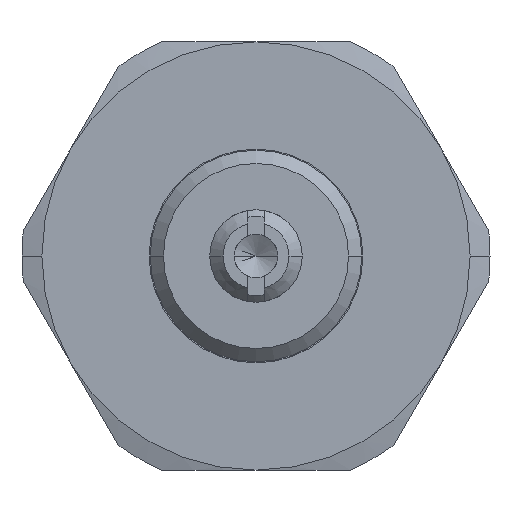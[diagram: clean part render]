
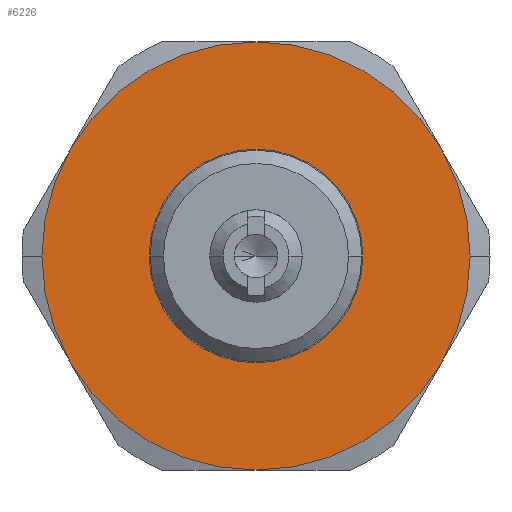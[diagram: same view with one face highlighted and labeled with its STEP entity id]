
A CAD part, left-side view. The second image highlights one B-rep face of the part: STEP entity #6226.
In plain terms, the highlighted planar face has unit normal (-1, 0, 0).
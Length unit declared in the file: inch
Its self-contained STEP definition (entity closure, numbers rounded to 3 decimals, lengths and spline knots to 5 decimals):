
#4776=CARTESIAN_POINT('',(-0.219,0.2495,0.0));
#4777=VERTEX_POINT('',#4776);
#4793=CARTESIAN_POINT('',(-0.219,-0.2495,0.));
#4794=VERTEX_POINT('',#4793);
#4801=CARTESIAN_POINT('',(-0.219,0.0,0.0));
#4802=DIRECTION('',(1.0,0.0,0.0));
#4803=DIRECTION('',(0.0,1.0,0.0));
#4804=AXIS2_PLACEMENT_3D('',#4801,#4802,#4803);
#4805=CIRCLE('',#4804,0.2495);
#4806=EDGE_CURVE('',#4777,#4794,#4805,.T.);
#4900=CARTESIAN_POINT('',(-0.219,0.5,0.));
#4901=VERTEX_POINT('',#4900);
#4908=CARTESIAN_POINT('',(-0.219,0.43301,0.25));
#4909=VERTEX_POINT('',#4908);
#4910=CARTESIAN_POINT('',(-0.219,0.0,0.0));
#4911=DIRECTION('',(1.0,0.0,0.0));
#4912=DIRECTION('',(0.0,1.0,0.0));
#4913=AXIS2_PLACEMENT_3D('',#4910,#4911,#4912);
#4914=CIRCLE('',#4913,0.5);
#4915=EDGE_CURVE('',#4901,#4909,#4914,.T.);
#4933=CARTESIAN_POINT('',(-0.219,-0.5,0.));
#4934=VERTEX_POINT('',#4933);
#4942=CARTESIAN_POINT('',(-0.219,-0.43301,0.25));
#4943=VERTEX_POINT('',#4942);
#4951=CARTESIAN_POINT('',(-0.219,0.0,0.0));
#4952=DIRECTION('',(1.0,0.0,0.0));
#4953=DIRECTION('',(0.0,1.0,0.0));
#4954=AXIS2_PLACEMENT_3D('',#4951,#4952,#4953);
#4955=CIRCLE('',#4954,0.5);
#4956=EDGE_CURVE('',#4943,#4934,#4955,.T.);
#5583=CARTESIAN_POINT('',(-0.219,0.,0.5));
#5584=VERTEX_POINT('',#5583);
#5678=CARTESIAN_POINT('',(-0.219,0.43301,-0.25));
#5679=VERTEX_POINT('',#5678);
#5738=CARTESIAN_POINT('',(-0.219,0.,-0.5));
#5739=VERTEX_POINT('',#5738);
#5798=CARTESIAN_POINT('',(-0.219,-0.43301,-0.25));
#5799=VERTEX_POINT('',#5798);
#6003=CARTESIAN_POINT('',(-0.219,0.0,0.0));
#6004=DIRECTION('',(1.0,0.0,0.0));
#6005=DIRECTION('',(0.0,1.0,0.0));
#6006=AXIS2_PLACEMENT_3D('',#6003,#6004,#6005);
#6007=CIRCLE('',#6006,0.5);
#6008=EDGE_CURVE('',#4934,#5799,#6007,.T.);
#6035=CARTESIAN_POINT('',(-0.219,0.0,0.0));
#6036=DIRECTION('',(1.0,0.0,0.0));
#6037=DIRECTION('',(0.0,1.0,0.0));
#6038=AXIS2_PLACEMENT_3D('',#6035,#6036,#6037);
#6039=CIRCLE('',#6038,0.5);
#6040=EDGE_CURVE('',#5799,#5739,#6039,.T.);
#6059=CARTESIAN_POINT('',(-0.219,0.0,0.0));
#6060=DIRECTION('',(1.0,0.0,0.0));
#6061=DIRECTION('',(0.0,1.0,0.0));
#6062=AXIS2_PLACEMENT_3D('',#6059,#6060,#6061);
#6063=CIRCLE('',#6062,0.5);
#6064=EDGE_CURVE('',#5739,#5679,#6063,.T.);
#6083=CARTESIAN_POINT('',(-0.219,0.0,0.0));
#6084=DIRECTION('',(1.0,0.0,0.0));
#6085=DIRECTION('',(0.0,1.0,0.0));
#6086=AXIS2_PLACEMENT_3D('',#6083,#6084,#6085);
#6087=CIRCLE('',#6086,0.5);
#6088=EDGE_CURVE('',#5679,#4901,#6087,.T.);
#6107=CARTESIAN_POINT('',(-0.219,0.0,0.0));
#6108=DIRECTION('',(1.0,0.0,0.0));
#6109=DIRECTION('',(0.0,1.0,0.0));
#6110=AXIS2_PLACEMENT_3D('',#6107,#6108,#6109);
#6111=CIRCLE('',#6110,0.5);
#6112=EDGE_CURVE('',#4909,#5584,#6111,.T.);
#6183=CARTESIAN_POINT('',(-0.219,0.0,0.0));
#6184=DIRECTION('',(1.0,0.0,0.0));
#6185=DIRECTION('',(0.0,1.0,0.0));
#6186=AXIS2_PLACEMENT_3D('',#6183,#6184,#6185);
#6187=CIRCLE('',#6186,0.2495);
#6188=EDGE_CURVE('',#4794,#4777,#6187,.T.);
#6201=CARTESIAN_POINT('',(-0.219,0.37475,0.0));
#6202=DIRECTION('',(-1.0,0.0,0.0));
#6203=DIRECTION('',(0.0,0.0,1.0));
#6204=AXIS2_PLACEMENT_3D('',#6201,#6202,#6203);
#6205=PLANE('',#6204);
#6206=ORIENTED_EDGE('',*,*,#6088,.F.);
#6207=ORIENTED_EDGE('',*,*,#6064,.F.);
#6208=ORIENTED_EDGE('',*,*,#6040,.F.);
#6209=ORIENTED_EDGE('',*,*,#6008,.F.);
#6210=ORIENTED_EDGE('',*,*,#4956,.F.);
#6211=CARTESIAN_POINT('',(-0.219,0.0,0.0));
#6212=DIRECTION('',(1.0,0.0,0.0));
#6213=DIRECTION('',(0.0,1.0,0.0));
#6214=AXIS2_PLACEMENT_3D('',#6211,#6212,#6213);
#6215=CIRCLE('',#6214,0.5);
#6216=EDGE_CURVE('',#5584,#4943,#6215,.T.);
#6217=ORIENTED_EDGE('',*,*,#6216,.F.);
#6218=ORIENTED_EDGE('',*,*,#6112,.F.);
#6219=ORIENTED_EDGE('',*,*,#4915,.F.);
#6220=EDGE_LOOP('',(#6206,#6207,#6208,#6209,#6210,#6217,#6218,#6219));
#6221=FACE_OUTER_BOUND('',#6220,.T.);
#6222=ORIENTED_EDGE('',*,*,#4806,.T.);
#6223=ORIENTED_EDGE('',*,*,#6188,.T.);
#6224=EDGE_LOOP('',(#6222,#6223));
#6225=FACE_BOUND('',#6224,.T.);
#6226=ADVANCED_FACE('',(#6221,#6225),#6205,.T.);
